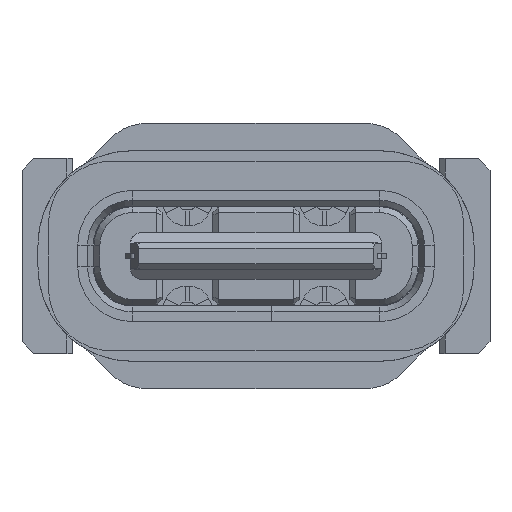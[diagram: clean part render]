
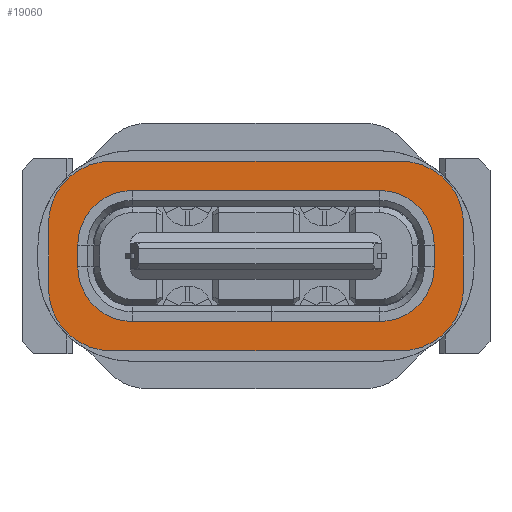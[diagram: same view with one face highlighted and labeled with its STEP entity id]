
A CAD part, front view. The second image highlights one B-rep face of the part: STEP entity #19060.
In plain terms, the highlighted planar face has unit normal (0, -1, 0).
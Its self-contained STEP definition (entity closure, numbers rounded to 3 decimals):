
#163 = EDGE_CURVE ( 'NONE', #8790, #32520, #18173, .T. ) ;
#208 = AXIS2_PLACEMENT_3D ( 'NONE', #41791, #10863, #49802 ) ;
#586 = DIRECTION ( 'NONE',  ( 1., 0., 0. ) ) ;
#983 = DIRECTION ( 'NONE',  ( 0., 1., 0. ) ) ;
#1078 = CARTESIAN_POINT ( 'NONE',  ( 3.17, -0.95, 1.68 ) ) ;
#1241 = CIRCLE ( 'NONE', #7832, 1.4 ) ;
#2192 = EDGE_CURVE ( 'NONE', #47966, #34015, #40437, .T. ) ;
#3302 = VERTEX_POINT ( 'NONE', #21085 ) ;
#4204 = LINE ( 'NONE', #11162, #9121 ) ;
#4287 = CIRCLE ( 'NONE', #15805, 1.4 ) ;
#4443 = LINE ( 'NONE', #35879, #46154 ) ;
#4582 = CARTESIAN_POINT ( 'NONE',  ( -3.17, -0.95, 1.68 ) ) ;
#4666 = EDGE_CURVE ( 'NONE', #34015, #3302, #23717, .T. ) ;
#4947 = ORIENTED_EDGE ( 'NONE', *, *, #46440, .T. ) ;
#5597 = CARTESIAN_POINT ( 'NONE',  ( 3.17, -0.95, 0.28 ) ) ;
#5616 = CARTESIAN_POINT ( 'NONE',  ( -3.17, -0.95, 0.28 ) ) ;
#6996 = DIRECTION ( 'NONE',  ( 0., -1., 0. ) ) ;
#7462 = CARTESIAN_POINT ( 'NONE',  ( -4.57, -0.95, -0.28 ) ) ;
#7492 = VERTEX_POINT ( 'NONE', #20586 ) ;
#7592 = CARTESIAN_POINT ( 'NONE',  ( 3.17, -0.95, -1.68 ) ) ;
#7832 = AXIS2_PLACEMENT_3D ( 'NONE', #48318, #39815, #24603 ) ;
#8102 = DIRECTION ( 'NONE',  ( -1., 0., 0. ) ) ;
#8790 = VERTEX_POINT ( 'NONE', #22179 ) ;
#8797 = EDGE_CURVE ( 'NONE', #14184, #8945, #37405, .T. ) ;
#8945 = VERTEX_POINT ( 'NONE', #23459 ) ;
#9031 = VERTEX_POINT ( 'NONE', #45287 ) ;
#9121 = VECTOR ( 'NONE', #43622, 1000. ) ;
#10223 = ORIENTED_EDGE ( 'NONE', *, *, #36932, .T. ) ;
#10430 = ORIENTED_EDGE ( 'NONE', *, *, #4666, .T. ) ;
#10440 = CARTESIAN_POINT ( 'NONE',  ( 5.32, -0.95, -0.83 ) ) ;
#10448 = CARTESIAN_POINT ( 'NONE',  ( -5.32, -0.95, 0.83 ) ) ;
#10845 = AXIS2_PLACEMENT_3D ( 'NONE', #5616, #20825, #48922 ) ;
#10863 = DIRECTION ( 'NONE',  ( 0., -1., 0. ) ) ;
#11143 = EDGE_LOOP ( 'NONE', ( #4947, #43388, #44602, #46309, #10223, #17185, #30038, #43297 ) ) ;
#11162 = CARTESIAN_POINT ( 'NONE',  ( 3.72, -0.95, 2.43 ) ) ;
#11194 = AXIS2_PLACEMENT_3D ( 'NONE', #20485, #35961, #40073 ) ;
#11706 = LINE ( 'NONE', #7592, #41345 ) ;
#11778 = CARTESIAN_POINT ( 'NONE',  ( 3.17, -0.95, -0.28 ) ) ;
#13061 = LINE ( 'NONE', #4582, #45341 ) ;
#13952 = DIRECTION ( 'NONE',  ( 0., 0., -1. ) ) ;
#14184 = VERTEX_POINT ( 'NONE', #10448 ) ;
#14227 = DIRECTION ( 'NONE',  ( 0., 0., -1. ) ) ;
#14484 = CARTESIAN_POINT ( 'NONE',  ( 0., -0.95, 0. ) ) ;
#14770 = AXIS2_PLACEMENT_3D ( 'NONE', #38937, #23222, #47685 ) ;
#14845 = VERTEX_POINT ( 'NONE', #7462 ) ;
#14950 = ORIENTED_EDGE ( 'NONE', *, *, #15068, .T. ) ;
#14973 = ORIENTED_EDGE ( 'NONE', *, *, #29899, .T. ) ;
#15068 = EDGE_CURVE ( 'NONE', #23550, #32765, #25684, .T. ) ;
#15342 = VERTEX_POINT ( 'NONE', #31867 ) ;
#15552 = CARTESIAN_POINT ( 'NONE',  ( -4.57, -0.95, 0.28 ) ) ;
#15725 = EDGE_CURVE ( 'NONE', #3302, #9031, #11706, .T. ) ;
#15805 = AXIS2_PLACEMENT_3D ( 'NONE', #5597, #983, #32406 ) ;
#16023 = VECTOR ( 'NONE', #40540, 1000. ) ;
#17185 = ORIENTED_EDGE ( 'NONE', *, *, #47823, .T. ) ;
#17238 = CARTESIAN_POINT ( 'NONE',  ( 4.57, -0.95, 0.28 ) ) ;
#17386 = CARTESIAN_POINT ( 'NONE',  ( 3.72, -0.95, 0.83 ) ) ;
#18087 = EDGE_CURVE ( 'NONE', #32765, #35630, #13061, .T. ) ;
#18173 = LINE ( 'NONE', #10440, #31315 ) ;
#18852 = PLANE ( 'NONE',  #41277 ) ;
#19060 = ADVANCED_FACE ( 'NONE', ( #30711, #45416 ), #18852, .T. ) ;
#20485 = CARTESIAN_POINT ( 'NONE',  ( -3.72, -0.95, 0.83 ) ) ;
#20586 = CARTESIAN_POINT ( 'NONE',  ( -3.72, -0.95, -2.43 ) ) ;
#20825 = DIRECTION ( 'NONE',  ( 0., 1., 0. ) ) ;
#21085 = CARTESIAN_POINT ( 'NONE',  ( 3.17, -0.95, -1.68 ) ) ;
#22179 = CARTESIAN_POINT ( 'NONE',  ( 5.32, -0.95, -0.83 ) ) ;
#23129 = DIRECTION ( 'NONE',  ( 0., 1., 0. ) ) ;
#23222 = DIRECTION ( 'NONE',  ( 0., -1., 0. ) ) ;
#23459 = CARTESIAN_POINT ( 'NONE',  ( -5.32, -0.95, -0.83 ) ) ;
#23550 = VERTEX_POINT ( 'NONE', #15552 ) ;
#23717 = CIRCLE ( 'NONE', #33623, 1.4 ) ;
#23811 = ORIENTED_EDGE ( 'NONE', *, *, #40102, .T. ) ;
#23986 = CARTESIAN_POINT ( 'NONE',  ( 4.57, -0.95, 0.28 ) ) ;
#24061 = CIRCLE ( 'NONE', #208, 1.6 ) ;
#24603 = DIRECTION ( 'NONE',  ( 0., 0., -1. ) ) ;
#25258 = EDGE_CURVE ( 'NONE', #14845, #23550, #48527, .T. ) ;
#25684 = CIRCLE ( 'NONE', #10845, 1.4 ) ;
#27568 = CARTESIAN_POINT ( 'NONE',  ( 4.57, -0.95, -0.28 ) ) ;
#28085 = CARTESIAN_POINT ( 'NONE',  ( 3.72, -0.95, 2.43 ) ) ;
#28486 = CIRCLE ( 'NONE', #11194, 1.6 ) ;
#28527 = DIRECTION ( 'NONE',  ( 1., 0., 0. ) ) ;
#29753 = CARTESIAN_POINT ( 'NONE',  ( -3.72, -0.95, 2.43 ) ) ;
#29899 = EDGE_CURVE ( 'NONE', #9031, #14845, #1241, .T. ) ;
#30038 = ORIENTED_EDGE ( 'NONE', *, *, #163, .T. ) ;
#30711 = FACE_BOUND ( 'NONE', #38067, .T. ) ;
#30768 = EDGE_CURVE ( 'NONE', #45300, #14184, #28486, .T. ) ;
#31315 = VECTOR ( 'NONE', #37248, 1000. ) ;
#31369 = DIRECTION ( 'NONE',  ( 1., 0., 0. ) ) ;
#31867 = CARTESIAN_POINT ( 'NONE',  ( 3.72, -0.95, -2.43 ) ) ;
#32302 = CARTESIAN_POINT ( 'NONE',  ( -4.57, -0.95, -0.28 ) ) ;
#32356 = DIRECTION ( 'NONE',  ( 1., 0., 0. ) ) ;
#32406 = DIRECTION ( 'NONE',  ( 0., 0., 1. ) ) ;
#32520 = VERTEX_POINT ( 'NONE', #33069 ) ;
#32765 = VERTEX_POINT ( 'NONE', #40219 ) ;
#33069 = CARTESIAN_POINT ( 'NONE',  ( 5.32, -0.95, 0.83 ) ) ;
#33623 = AXIS2_PLACEMENT_3D ( 'NONE', #11778, #23129, #31369 ) ;
#34015 = VERTEX_POINT ( 'NONE', #27568 ) ;
#35630 = VERTEX_POINT ( 'NONE', #1078 ) ;
#35879 = CARTESIAN_POINT ( 'NONE',  ( -3.72, -0.95, -2.43 ) ) ;
#35961 = DIRECTION ( 'NONE',  ( 0., -1., 0. ) ) ;
#36565 = DIRECTION ( 'NONE',  ( 0., 0., -1. ) ) ;
#36932 = EDGE_CURVE ( 'NONE', #7492, #15342, #4443, .T. ) ;
#36989 = ORIENTED_EDGE ( 'NONE', *, *, #2192, .T. ) ;
#37229 = VERTEX_POINT ( 'NONE', #28085 ) ;
#37248 = DIRECTION ( 'NONE',  ( 0., 0., 1. ) ) ;
#37405 = LINE ( 'NONE', #49273, #37844 ) ;
#37621 = ORIENTED_EDGE ( 'NONE', *, *, #15725, .T. ) ;
#37704 = CIRCLE ( 'NONE', #47580, 1.6 ) ;
#37844 = VECTOR ( 'NONE', #13952, 1000. ) ;
#38067 = EDGE_LOOP ( 'NONE', ( #10430, #37621, #14973, #43843, #14950, #42337, #23811, #36989 ) ) ;
#38937 = CARTESIAN_POINT ( 'NONE',  ( -3.72, -0.95, -0.83 ) ) ;
#39815 = DIRECTION ( 'NONE',  ( 0., 1., 0. ) ) ;
#40073 = DIRECTION ( 'NONE',  ( 0., 0., 1. ) ) ;
#40102 = EDGE_CURVE ( 'NONE', #35630, #47966, #4287, .T. ) ;
#40219 = CARTESIAN_POINT ( 'NONE',  ( -3.17, -0.95, 1.68 ) ) ;
#40437 = LINE ( 'NONE', #17238, #47252 ) ;
#40540 = DIRECTION ( 'NONE',  ( 0., 0., 1. ) ) ;
#40846 = DIRECTION ( 'NONE',  ( 0., -1., 0. ) ) ;
#41277 = AXIS2_PLACEMENT_3D ( 'NONE', #14484, #6996, #14227 ) ;
#41345 = VECTOR ( 'NONE', #8102, 1000. ) ;
#41791 = CARTESIAN_POINT ( 'NONE',  ( 3.72, -0.95, -0.83 ) ) ;
#42337 = ORIENTED_EDGE ( 'NONE', *, *, #18087, .T. ) ;
#43297 = ORIENTED_EDGE ( 'NONE', *, *, #50174, .T. ) ;
#43388 = ORIENTED_EDGE ( 'NONE', *, *, #30768, .T. ) ;
#43622 = DIRECTION ( 'NONE',  ( -1., 0., 0. ) ) ;
#43843 = ORIENTED_EDGE ( 'NONE', *, *, #25258, .T. ) ;
#44301 = EDGE_CURVE ( 'NONE', #8945, #7492, #44372, .T. ) ;
#44372 = CIRCLE ( 'NONE', #14770, 1.6 ) ;
#44602 = ORIENTED_EDGE ( 'NONE', *, *, #8797, .T. ) ;
#45287 = CARTESIAN_POINT ( 'NONE',  ( -3.17, -0.95, -1.68 ) ) ;
#45300 = VERTEX_POINT ( 'NONE', #29753 ) ;
#45341 = VECTOR ( 'NONE', #28527, 1000. ) ;
#45416 = FACE_OUTER_BOUND ( 'NONE', #11143, .T. ) ;
#46154 = VECTOR ( 'NONE', #586, 1000. ) ;
#46309 = ORIENTED_EDGE ( 'NONE', *, *, #44301, .T. ) ;
#46440 = EDGE_CURVE ( 'NONE', #37229, #45300, #4204, .T. ) ;
#47252 = VECTOR ( 'NONE', #36565, 1000. ) ;
#47580 = AXIS2_PLACEMENT_3D ( 'NONE', #17386, #40846, #32356 ) ;
#47685 = DIRECTION ( 'NONE',  ( -1., 0., 0. ) ) ;
#47823 = EDGE_CURVE ( 'NONE', #15342, #8790, #24061, .T. ) ;
#47966 = VERTEX_POINT ( 'NONE', #23986 ) ;
#48318 = CARTESIAN_POINT ( 'NONE',  ( -3.17, -0.95, -0.28 ) ) ;
#48527 = LINE ( 'NONE', #32302, #16023 ) ;
#48922 = DIRECTION ( 'NONE',  ( -1., 0., 0. ) ) ;
#49273 = CARTESIAN_POINT ( 'NONE',  ( -5.32, -0.95, 0.83 ) ) ;
#49802 = DIRECTION ( 'NONE',  ( 0., 0., -1. ) ) ;
#50174 = EDGE_CURVE ( 'NONE', #32520, #37229, #37704, .T. ) ;
